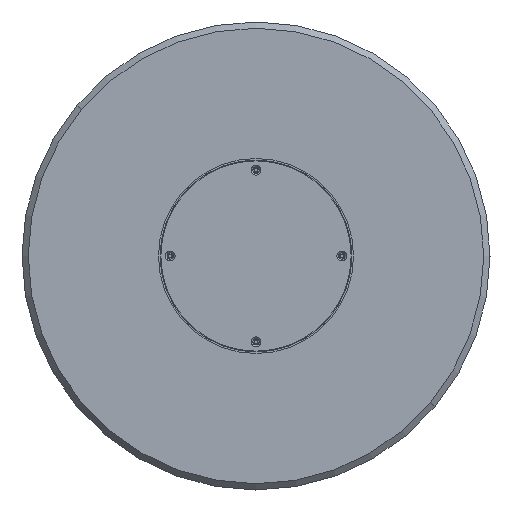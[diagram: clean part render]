
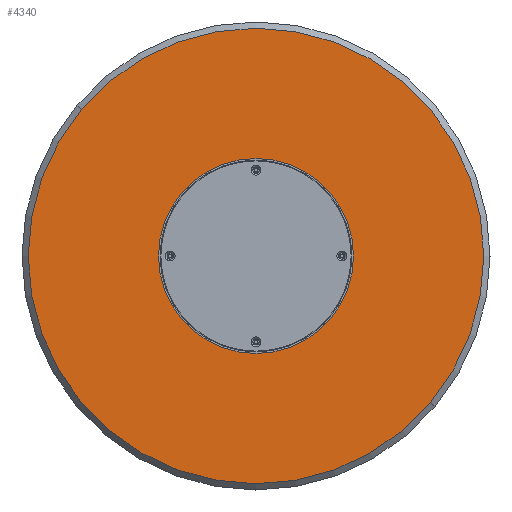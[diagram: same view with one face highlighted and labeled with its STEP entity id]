
A CAD part, front view. The second image highlights one B-rep face of the part: STEP entity #4340.
In plain terms, the highlighted planar face has unit normal (0, -1, 0).
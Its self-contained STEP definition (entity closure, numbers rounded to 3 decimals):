
#360 = ORIENTED_EDGE ( 'NONE', *, *, #458, .T. ) ;
#458 = EDGE_CURVE ( 'NONE', #3605, #2917, #3341, .T. ) ;
#565 = AXIS2_PLACEMENT_3D ( 'NONE', #3425, #1453, #2729 ) ;
#1365 = ORIENTED_EDGE ( 'NONE', *, *, #1780, .T. ) ;
#1453 = DIRECTION ( 'NONE',  ( 0., -1., 0. ) ) ;
#1780 = EDGE_CURVE ( 'NONE', #2917, #3605, #3284, .T. ) ;
#1966 = FACE_OUTER_BOUND ( 'NONE', #2035, .T. ) ;
#2035 = EDGE_LOOP ( 'NONE', ( #360, #1365 ) ) ;
#2438 = DIRECTION ( 'NONE',  ( 0., 0., -1. ) ) ;
#2729 = DIRECTION ( 'NONE',  ( 0., 0., -1. ) ) ;
#2746 = CARTESIAN_POINT ( 'NONE',  ( 0., 0., 0. ) ) ;
#2917 = VERTEX_POINT ( 'NONE', #4466 ) ;
#3166 = DIRECTION ( 'NONE',  ( 0., 0., -1. ) ) ;
#3253 = DIRECTION ( 'NONE',  ( 0., -1., 0. ) ) ;
#3284 = CIRCLE ( 'NONE', #4182, 292. ) ;
#3341 = CIRCLE ( 'NONE', #565, 292. ) ;
#3425 = CARTESIAN_POINT ( 'NONE',  ( 0., 0., 0. ) ) ;
#3522 = DIRECTION ( 'NONE',  ( 0., -1., 0. ) ) ;
#3578 = PLANE ( 'NONE',  #4954 ) ;
#3605 = VERTEX_POINT ( 'NONE', #4608 ) ;
#3991 = CARTESIAN_POINT ( 'NONE',  ( 0., 0., 0. ) ) ;
#4182 = AXIS2_PLACEMENT_3D ( 'NONE', #2746, #3253, #2438 ) ;
#4340 = ADVANCED_FACE ( 'NONE', ( #1966 ), #3578, .T. ) ;
#4466 = CARTESIAN_POINT ( 'NONE',  ( 0., 0., -292. ) ) ;
#4608 = CARTESIAN_POINT ( 'NONE',  ( 0., 0., 292. ) ) ;
#4954 = AXIS2_PLACEMENT_3D ( 'NONE', #3991, #3522, #3166 ) ;
